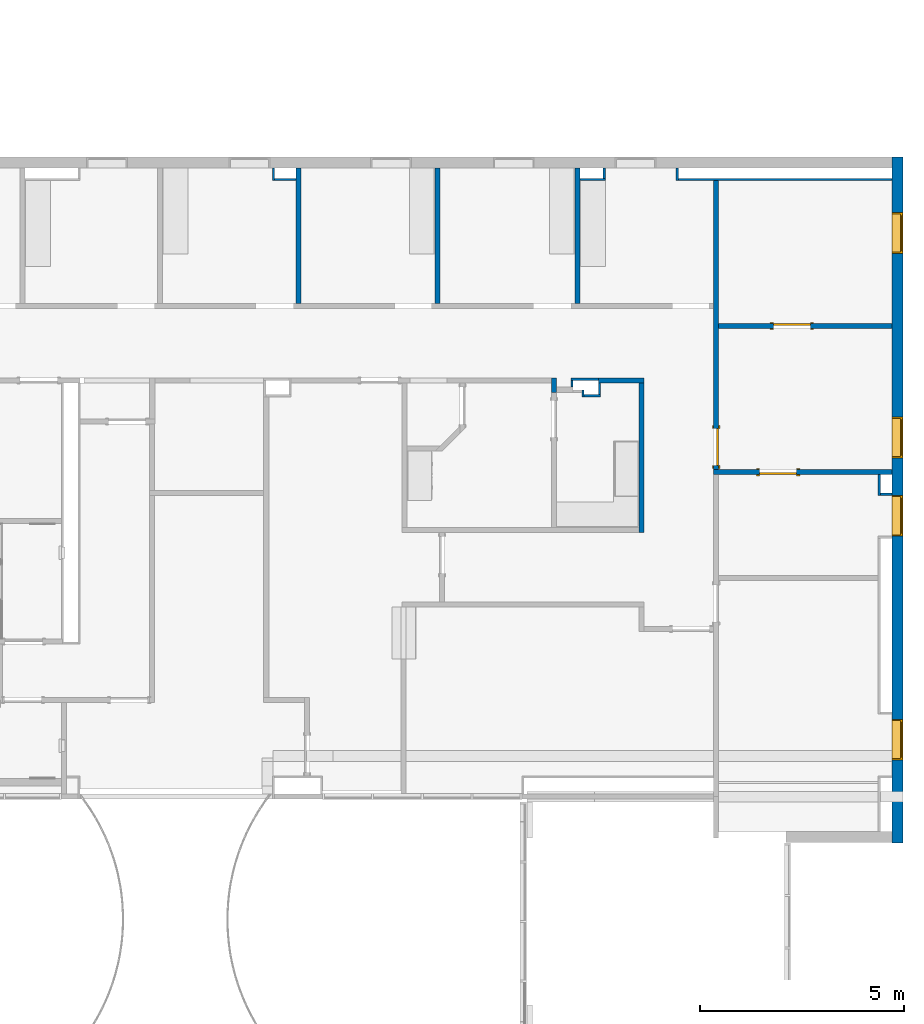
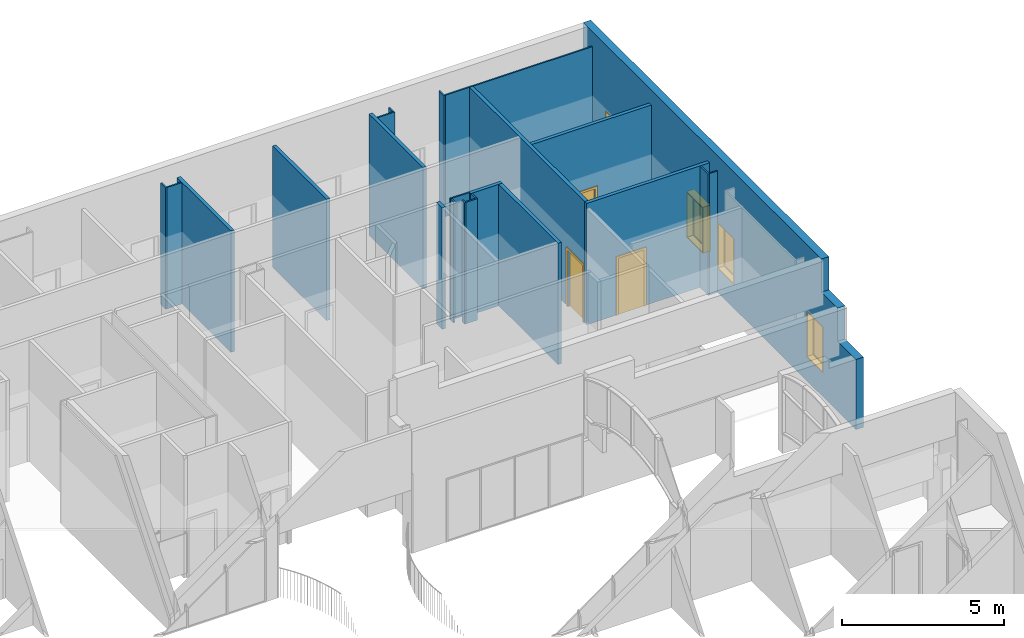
# One storey, part 24 of 47: 23 walls, 4 windows, 3 doors, 8 openings.
"""IFC2X3 building model written with IfcOpenShell, lengths in metres."""

from ifc_helpers import new_model, entity, si_unit, converted_unit, frame, frame_2d, origin, origin_2d_with_axis, place, context, project, spatial, polyline, rectangle, outline, extrude, clip, halfspace, source, transform, mapped, material, layer, layer_set, layer_usage, type_object, type_shapes, element, fill, save


model = new_model("IFC2X3")

# Units and contexts
model_context = context("Model", 3, precision=1e-09, world=origin())
plan_context = context("Plan", 3, precision=1e-09, world=origin())
ifc_project = project(units=[si_unit("LENGTHUNIT", "METRE"), si_unit("AREAUNIT", "SQUARE_METRE"), si_unit("VOLUMEUNIT", "CUBIC_METRE"), converted_unit("PLANEANGLEUNIT", "DEGREE", entity("IfcRatioMeasure", 0.01745329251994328), si_unit("PLANEANGLEUNIT", "RADIAN"), dimensions=[0, 0, 0, 0, 0, 0, 0]), si_unit("TIMEUNIT", "SECOND")], contexts=[model_context, plan_context])

# Site, building, storey
site_placement = place(None, origin())
site = spatial("IfcSite", under=ifc_project, at=site_placement, Name="Default", CompositionType="ELEMENT")
building_placement = place(site_placement, origin())
building = spatial("IfcBuilding", under=site, at=building_placement, CompositionType="ELEMENT")
storey_placement = place(building_placement, frame((0.0, 0.0, 4.570000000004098)))
storey = spatial("IfcBuildingStorey", under=building, at=storey_placement, Name="Second Floor", CompositionType="ELEMENT", Elevation=4.570000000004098)

# Wall, openings, windows
ifc_material_1 = material(Name="Insulation - Insulated Panel")
ifc_layer_1 = layer(ifc_material_1, 0.042)
ifc_material_2 = material(Name="Metal - Firring")
ifc_layer_2 = layer(ifc_material_2, 0.038)
ifc_material_3 = material(Name="Wood - Sheathing - plywood")
ifc_layer_3 = layer(ifc_material_3, 0.019)
ifc_material_4 = material(Name="Metal - Stud Layer")
ifc_layer_4 = layer(ifc_material_4, 0.152)
ifc_material_5 = material(Name="Plasterboard")
ifc_layer_5 = layer(ifc_material_5, 0.016)
ifc_layer_set_1 = layer_set([ifc_layer_1, ifc_layer_2, ifc_layer_3, ifc_layer_4, ifc_layer_5], Name="Basic Wall:Exterior - Insul Panel on Mtl. Stud")
ifc_layer_usage_1 = layer_usage(ifc_layer_set_1, "AXIS2", "NEGATIVE", 0.1335)
wall_1_placement = place(storey_placement, frame((0.2464999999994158, 50.46999999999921, 0.0), z_axis=(0.0, 0.0, 1.0), x_axis=(0.0, -1.0, 0.0)))
wall_1 = element("IfcWallStandardCase", 1, at=wall_1_placement, inside=storey, material=ifc_layer_usage_1, Name="Basic Wall:Exterior - Insul Panel on Mtl. Stud", ObjectType="Basic Wall:Exterior - Insul Panel on Mtl. Stud", context=model_context, shape_type="Clipping", body=[
    clip(extrude(rectangle(XDim=16.83999999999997, YDim=0.267, at=frame_2d((8.419999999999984, 0.0), x_axis=(-1.0, 0.0))), origin(), (0.0, 0.0, 1.0), 5.136999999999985), halfspace(frame((16.83999999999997, 0.0, 2.640000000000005), z_axis=(0.7602158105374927, 0.0, 0.6496706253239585), x_axis=(0.0, 1.0, 0.0)), False)),
])
opening_1_placement = place(wall_1_placement, frame((15.5330384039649, 0.1335, 3.638799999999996)))
element("IfcOpeningElement", 2, at=opening_1_placement, cuts=wall_1, Name="Basic Wall:Exterior - Insul Panel on Mtl. Stud:2", ObjectType="Opening", context=model_context, shape_type="SweptSolid", body=[
    extrude(outline(polyline([(-1.608398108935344, -0.3446818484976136), (1.676195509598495, -0.344681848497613), (0.7270660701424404, 0.4664319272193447), (0.077132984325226, -0.2940910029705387), (-0.8719964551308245, 0.5170227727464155), (-1.608398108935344, -0.3446818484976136)])), frame((0.0, 0.0, 0.0), z_axis=(0.0, -1.0, 0.0), x_axis=(-0.6496706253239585, 0.0, 0.7602158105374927)), (0.0, 0.0, 1.0), 0.267),
])
opening_2_placement = place(wall_1_placement, frame((1.36443913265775, -0.1335000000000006, 0.905)))
opening_2 = element("IfcOpeningElement", 3, at=opening_2_placement, cuts=wall_1, Name="M_Fixed:1735 x 1000mm:1735 x 1000mm:1", ObjectType="Opening", context=model_context, shape_type="SweptSolid", body=[
    extrude(rectangle(XDim=1.734999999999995, YDim=0.9999999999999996, at=frame_2d((0.8674999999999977, 0.4999999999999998), x_axis=(1.0, 0.0))), frame((0.0, 0.0, 0.0), z_axis=(0.0, 1.0, 0.0), x_axis=(0.0, 0.0, 1.0)), (0.0, 0.0, 1.0), 0.267),
])
opening_3_placement = place(wall_1_placement, frame((6.384439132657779, -0.1335000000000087, 0.905)))
opening_3 = element("IfcOpeningElement", 4, at=opening_3_placement, cuts=wall_1, Name="M_Fixed:1735 x 1000mm:1735 x 1000mm:1", ObjectType="Opening", context=model_context, shape_type="SweptSolid", body=[
    extrude(rectangle(XDim=1.734999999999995, YDim=0.9999999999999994, at=frame_2d((0.8674999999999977, 0.5000000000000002), x_axis=(1.0, 0.0))), frame((0.0, 0.0, 0.0), z_axis=(0.0, 1.0, 0.0), x_axis=(0.0, 0.0, 1.0)), (0.0, 0.0, 1.0), 0.267),
])
opening_4_placement = place(wall_1_placement, frame((8.305561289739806, -0.1335000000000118, 0.905)))
opening_4 = element("IfcOpeningElement", 5, at=opening_4_placement, cuts=wall_1, Name="M_Fixed:1735 x 1000mm:1735 x 1000mm:1", ObjectType="Opening", context=model_context, shape_type="SweptSolid", body=[
    extrude(rectangle(XDim=1.734999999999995, YDim=0.9999999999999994, at=frame_2d((0.8674999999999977, 0.5000000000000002), x_axis=(1.0, 0.0))), frame((0.0, 0.0, 0.0), z_axis=(0.0, 1.0, 0.0), x_axis=(0.0, 0.0, 1.0)), (0.0, 0.0, 1.0), 0.267),
])
opening_5_placement = place(wall_1_placement, frame((13.80556128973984, -0.1335000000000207, 0.905)))
opening_5 = element("IfcOpeningElement", 6, at=opening_5_placement, cuts=wall_1, Name="M_Fixed:1735 x 1000mm:1735 x 1000mm:1", ObjectType="Opening", context=model_context, shape_type="SweptSolid", body=[
    extrude(rectangle(XDim=1.734999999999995, YDim=0.9999999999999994, at=frame_2d((0.8674999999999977, 0.5000000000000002), x_axis=(1.0, 0.0))), frame((0.0, 0.0, 0.0), z_axis=(0.0, 1.0, 0.0), x_axis=(0.0, 0.0, 1.0)), (0.0, 0.0, 1.0), 0.267),
])
window_style = type_object("IfcWindowStyle", Name="1735 x 1000mm", ConstructionType="NOTDEFINED", OperationType="NOTDEFINED", ParameterTakesPrecedence=False, Sizeable=False)
shared_shape_1 = source(origin(), model_context, "Body", "SweptSolid", [
    extrude(rectangle(XDim=0.012, YDim=0.873999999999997, at=origin_2d_with_axis()), frame((0.5000000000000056, 0.2259999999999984, 0.06299999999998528), z_axis=(0.0, 0.0, 1.0), x_axis=(0.0, -1.0, 0.0)), (0.0, 0.0, 1.0), 1.609000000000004),
    extrude(outline(polyline([(-0.4809999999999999, -0.8485000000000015), (0.4809999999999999, -0.8485000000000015), (0.4809999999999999, 0.8485000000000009), (-0.4809999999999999, 0.8485000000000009), (-0.4809999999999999, -0.8485000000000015)]), holes=[polyline([(-0.4369999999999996, -0.8045000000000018), (-0.4369999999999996, 0.8045000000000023), (0.4369999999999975, 0.8045000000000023), (0.4369999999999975, -0.8045000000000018), (-0.4369999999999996, -0.8045000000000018)])]), frame((0.5000000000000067, 0.203999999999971, 0.8674999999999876), z_axis=(0.0, 1.0, 0.0), x_axis=(1.0, 0.0, 0.0)), (0.0, 0.0, 1.0), 0.04400000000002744),
    extrude(outline(polyline([(-0.4999999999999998, -0.8674999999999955), (0.4999999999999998, -0.8674999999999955), (0.4999999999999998, 0.8674999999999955), (-0.4999999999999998, 0.8674999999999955), (-0.4999999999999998, -0.8674999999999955)]), holes=[polyline([(-0.4810000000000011, -0.8484999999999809), (-0.4810000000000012, 0.8485000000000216), (0.4809999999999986, 0.8485000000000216), (0.4809999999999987, -0.8484999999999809), (-0.4810000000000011, -0.8484999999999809)])]), frame((0.500000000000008, 0.203999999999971, 0.8675000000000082), z_axis=(0.0, 1.0, 0.0), x_axis=(1.0, 0.0, 0.0)), (0.0, 0.0, 1.0), 0.06300000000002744),
    extrude(outline(polyline([(-0.5000000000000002, -0.867499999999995), (0.5000000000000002, -0.867499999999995), (0.5000000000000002, 0.867499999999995), (-0.5000000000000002, 0.867499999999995), (-0.5000000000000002, -0.867499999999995)]), holes=[polyline([(-0.4679999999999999, -0.8354999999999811), (-0.4679999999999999, 0.8355000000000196), (0.4680000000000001, 0.8355000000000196), (0.4680000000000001, -0.8354999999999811), (-0.4679999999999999, -0.8354999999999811)])]), frame((0.5000000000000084, 0.0, 0.8675000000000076), z_axis=(0.0, 1.0, 0.0), x_axis=(1.0, 0.0, 0.0)), (0.0, 0.0, 1.0), 0.2039999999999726),
])
type_shapes(window_style, [shared_shape_1])
window_1_placement = place(opening_2_placement, origin())
window_1 = element("IfcWindow", 7, at=window_1_placement, inside=storey, type_object=window_style, Name="M_Fixed:1735 x 1000mm:1735 x 1000mm", ObjectType="1735 x 1000mm", OverallHeight=1.734999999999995, OverallWidth=0.9999999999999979, context=model_context, shape_type="MappedRepresentation", body=[
    mapped(shared_shape_1, transform((0.0, 0.0, 0.0), scale=1.0)),
])
fill(opening_2, window_1)
window_2_placement = place(opening_3_placement, origin())
window_2 = element("IfcWindow", 8, at=window_2_placement, inside=storey, type_object=window_style, Name="M_Fixed:1735 x 1000mm:1735 x 1000mm", ObjectType="1735 x 1000mm", OverallHeight=1.734999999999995, OverallWidth=0.9999999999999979, context=model_context, shape_type="MappedRepresentation", body=[
    mapped(shared_shape_1, transform((0.0, 0.0, 0.0), scale=1.0)),
])
fill(opening_3, window_2)
window_3_placement = place(opening_4_placement, origin())
window_3 = element("IfcWindow", 9, at=window_3_placement, inside=storey, type_object=window_style, Name="M_Fixed:1735 x 1000mm:1735 x 1000mm", ObjectType="1735 x 1000mm", OverallHeight=1.734999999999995, OverallWidth=0.9999999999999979, context=model_context, shape_type="MappedRepresentation", body=[
    mapped(shared_shape_1, transform((0.0, 0.0, 0.0), scale=1.0)),
])
fill(opening_4, window_3)
window_4_placement = place(opening_5_placement, origin())
window_4 = element("IfcWindow", 10, at=window_4_placement, inside=storey, type_object=window_style, Name="M_Fixed:1735 x 1000mm:1735 x 1000mm", ObjectType="1735 x 1000mm", OverallHeight=1.734999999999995, OverallWidth=0.9999999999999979, context=model_context, shape_type="MappedRepresentation", body=[
    mapped(shared_shape_1, transform((0.0, 0.0, 0.0), scale=1.0)),
])
fill(opening_5, window_4)

# Walls
ifc_layer_6 = layer(ifc_material_5, 0.016)
ifc_layer_7 = layer(ifc_material_4, 0.092)
ifc_layer_8 = layer(ifc_material_5, 0.016)
ifc_layer_set_2 = layer_set([ifc_layer_6, ifc_layer_7, ifc_layer_8], Name="Basic Wall:Interior - Partition (92mm Stud)")
ifc_layer_usage_2 = layer_usage(ifc_layer_set_2, "AXIS2", "NEGATIVE", 0.062)
wall_2_placement = place(storey_placement, frame((-14.46200000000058, 50.20299999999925, 0.0), z_axis=(0.0, 0.0, 1.0), x_axis=(0.0, -1.0, 0.0)))
element("IfcWallStandardCase", 11, at=wall_2_placement, inside=storey, material=ifc_layer_usage_2, Name="Basic Wall:Interior - Partition (92mm Stud)", ObjectType="Basic Wall:Interior - Partition (92mm Stud)", context=model_context, shape_type="SweptSolid", body=[
    extrude(rectangle(XDim=3.324561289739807, YDim=0.1240000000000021, at=frame_2d((1.662280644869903, 0.0), x_axis=(-1.0, 0.0))), origin(), (0.0, 0.0, 1.0), 4.577999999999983),
])
ifc_layer_usage_3 = layer_usage(ifc_layer_set_2, "AXIS2", "NEGATIVE", 0.062)
wall_3_placement = place(storey_placement, frame((-11.05200000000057, 50.20299999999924, 0.0), z_axis=(0.0, 0.0, 1.0), x_axis=(0.0, -1.0, 0.0)))
element("IfcWallStandardCase", 12, at=wall_3_placement, inside=storey, material=ifc_layer_usage_3, Name="Basic Wall:Interior - Partition (92mm Stud)", ObjectType="Basic Wall:Interior - Partition (92mm Stud)", context=model_context, shape_type="SweptSolid", body=[
    extrude(rectangle(XDim=3.324561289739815, YDim=0.1240000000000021, at=frame_2d((1.662280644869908, 0.0), x_axis=(-1.0, 0.0))), origin(), (0.0, 0.0, 1.0), 4.577999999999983),
])
ifc_layer_usage_4 = layer_usage(ifc_layer_set_2, "AXIS2", "NEGATIVE", 0.062)
wall_4_placement = place(storey_placement, frame((-7.618000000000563, 46.87843871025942, 0.0), z_axis=(0.0, 0.0, 1.0), x_axis=(0.0, 1.0, 0.0)))
element("IfcWallStandardCase", 13, at=wall_4_placement, inside=storey, material=ifc_layer_usage_4, Name="Basic Wall:Interior - Partition (92mm Stud)", ObjectType="Basic Wall:Interior - Partition (92mm Stud)", context=model_context, shape_type="SweptSolid", body=[
    extrude(rectangle(XDim=3.324561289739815, YDim=0.124, at=frame_2d((1.662280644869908, 0.0), x_axis=(-1.0, 0.0))), origin(), (0.0, 0.0, 1.0), 4.577999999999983),
])

# Wall, opening, door
ifc_layer_usage_5 = layer_usage(ifc_layer_set_2, "AXIS2", "NEGATIVE", 0.062)
wall_5_placement = place(storey_placement, frame((0.1129999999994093, 46.3264387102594, 0.0), z_axis=(0.0, 0.0, 1.0), x_axis=(-1.0, 0.0, 0.0)))
wall_5 = element("IfcWallStandardCase", 14, at=wall_5_placement, inside=storey, material=ifc_layer_usage_5, Name="Basic Wall:Interior - Partition (92mm Stud)", ObjectType="Basic Wall:Interior - Partition (92mm Stud)", context=model_context, shape_type="SweptSolid", body=[
    extrude(rectangle(XDim=4.258999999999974, YDim=0.1240000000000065, at=frame_2d((2.129499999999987, 0.0), x_axis=(-1.0, 0.0))), origin(), (0.0, 0.0, 1.0), 4.577999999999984),
])
opening_6_placement = place(wall_5_placement, frame((2.918999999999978, 0.06199999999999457, 0.0)))
opening_6 = element("IfcOpeningElement", 15, at=opening_6_placement, cuts=wall_5, Name="M_Single-Flush:0915 x 2134mm:0915 x 2134mm:1", ObjectType="Opening", context=model_context, shape_type="SweptSolid", body=[
    extrude(rectangle(XDim=0.915, YDim=2.134, at=frame_2d((1.067, 0.4575000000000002), x_axis=(0.0, -1.0))), frame((0.0, 0.0, 0.0), z_axis=(0.0, -1.0, 0.0), x_axis=(0.0, 0.0, 1.0)), (0.0, 0.0, 1.0), 0.124),
])
door_style_1 = type_object("IfcDoorStyle", Name="0915 x 2134mm", ConstructionType="NOTDEFINED", OperationType="SINGLE_SWING_LEFT", ParameterTakesPrecedence=False, Sizeable=False)
shared_shape_2 = source(origin(), model_context, "Body", "SweptSolid", [
    extrude(outline(polyline([(-0.5335, -1.123999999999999), (0.5334999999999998, -1.123999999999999), (0.5334999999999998, 1.086), (0.4574999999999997, 1.086), (0.4574999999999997, -1.048000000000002), (-0.4574999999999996, -1.048000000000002), (-0.4574999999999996, 1.086), (-0.5335, 1.086), (-0.5335, -1.123999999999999)])), frame((0.4575000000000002, 0.1489999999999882, 1.086), z_axis=(0.0, -1.0, 0.0), x_axis=(-1.0, 0.0, 0.0)), (0.0, 0.0, 1.0), 0.02499999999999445),
    extrude(outline(polyline([(-1.123999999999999, -0.5334999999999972), (1.085999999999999, -0.5334999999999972), (1.085999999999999, -0.4575000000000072), (-1.048, -0.4575000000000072), (-1.048, 0.4575000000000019), (1.085999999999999, 0.4575000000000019), (1.085999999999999, 0.5335000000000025), (-1.123999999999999, 0.5335000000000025), (-1.123999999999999, -0.5334999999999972)])), frame((0.4574999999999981, 0.0, 1.085999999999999), z_axis=(0.0, -1.0, 0.0), x_axis=(0.0, 0.0, -1.0)), (0.0, 0.0, 1.0), 0.02500000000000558),
    extrude(rectangle(XDim=0.9149999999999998, YDim=0.051, at=origin_2d_with_axis()), frame((0.4575000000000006, 0.09849999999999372, 0.0)), (0.0, 0.0, 1.0), 2.133999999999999),
])
type_shapes(door_style_1, [shared_shape_2])
door_1_placement = place(opening_6_placement, frame((0.0, 0.0, 0.0), z_axis=(0.0, 0.0, 1.0), x_axis=(-1.0, 0.0, 0.0)))
door_1 = element("IfcDoor", 16, at=door_1_placement, inside=storey, type_object=door_style_1, Name="M_Single-Flush:0915 x 2134mm:0915 x 2134mm", ObjectType="0915 x 2134mm", OverallHeight=2.134, OverallWidth=0.9149999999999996, context=model_context, shape_type="MappedRepresentation", body=[
    mapped(shared_shape_2, transform((0.0, 0.0, 0.0), scale=1.0)),
])
fill(opening_6, door_1)

# Walls
ifc_layer_usage_6 = layer_usage(ifc_layer_set_2, "AXIS2", "NEGATIVE", 0.062)
wall_6_placement = place(storey_placement, frame((-8.19200000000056, 45.04443871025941, 0.0), z_axis=(0.0, 0.0, 1.0), x_axis=(0.0, -1.0, 0.0)))
element("IfcWallStandardCase", 17, at=wall_6_placement, inside=storey, material=ifc_layer_usage_6, Name="Basic Wall:Interior - Partition (92mm Stud)", ObjectType="Basic Wall:Interior - Partition (92mm Stud)", context=model_context, shape_type="SweptSolid", body=[
    extrude(rectangle(XDim=0.3489998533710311, YDim=0.124, at=frame_2d((0.1744999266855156, 0.0), x_axis=(-1.0, 0.0))), origin(), (0.0, 0.0, 1.0), 4.577999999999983),
])
ifc_layer_usage_7 = layer_usage(ifc_layer_set_2, "AXIS2", "NEGATIVE", 0.062)
wall_7_placement = place(storey_placement, frame((-7.104000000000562, 44.9824387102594, 0.0)))
element("IfcWallStandardCase", 18, at=wall_7_placement, inside=storey, material=ifc_layer_usage_7, Name="Basic Wall:Interior - Partition (92mm Stud)", ObjectType="Basic Wall:Interior - Partition (92mm Stud)", context=model_context, shape_type="SweptSolid", body=[
    extrude(rectangle(XDim=1.124000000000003, YDim=0.1240000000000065, at=frame_2d((0.5620000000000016, 0.0), x_axis=(-1.0, 0.0))), origin(), (0.0, 0.0, 1.0), 4.577999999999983),
])
ifc_layer_usage_8 = layer_usage(ifc_layer_set_2, "AXIS2", "NEGATIVE", 0.062)
wall_8_placement = place(storey_placement, frame((-6.042000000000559, 44.9204387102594, 0.0), z_axis=(0.0, 0.0, 1.0), x_axis=(0.0, -1.0, 0.0)))
element("IfcWallStandardCase", 19, at=wall_8_placement, inside=storey, material=ifc_layer_usage_8, Name="Basic Wall:Interior - Partition (92mm Stud)", ObjectType="Basic Wall:Interior - Partition (92mm Stud)", context=model_context, shape_type="SweptSolid", body=[
    extrude(rectangle(XDim=3.666000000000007, YDim=0.124, at=frame_2d((1.833000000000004, 0.0), x_axis=(-1.0, 0.0))), origin(), (0.0, 0.0, 1.0), 4.577999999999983),
])

# Wall, opening, door
ifc_layer_usage_9 = layer_usage(ifc_layer_set_2, "AXIS2", "NEGATIVE", 0.062)
wall_9_placement = place(storey_placement, frame((-4.270000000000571, 42.7324387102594, 0.0)))
wall_9 = element("IfcWallStandardCase", 20, at=wall_9_placement, inside=storey, material=ifc_layer_usage_9, Name="Basic Wall:Interior - Partition (92mm Stud)", ObjectType="Basic Wall:Interior - Partition (92mm Stud)", context=model_context, shape_type="SweptSolid", body=[
    extrude(rectangle(XDim=4.382999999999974, YDim=0.1240000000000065, at=frame_2d((2.191499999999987, 0.0), x_axis=(-1.0, 0.0))), origin(), (0.0, 0.0, 1.0), 4.577999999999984),
])
opening_7_placement = place(wall_9_placement, frame((2.03900000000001, 0.06199999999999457, 0.0)))
opening_7 = element("IfcOpeningElement", 21, at=opening_7_placement, cuts=wall_9, Name="M_Single-Flush:0915 x 2134mm:0915 x 2134mm:1", ObjectType="Opening", context=model_context, shape_type="SweptSolid", body=[
    extrude(rectangle(XDim=0.9149999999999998, YDim=2.134, at=frame_2d((1.067, 0.4575000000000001), x_axis=(0.0, 1.0))), frame((0.0, 0.0, 0.0), z_axis=(0.0, -1.0, 0.0), x_axis=(0.0, 0.0, 1.0)), (0.0, 0.0, 1.0), 0.124),
])
door_style_2 = type_object("IfcDoorStyle", Name="0915 x 2134mm", ConstructionType="NOTDEFINED", OperationType="SINGLE_SWING_RIGHT", ParameterTakesPrecedence=False, Sizeable=False)
shared_shape_3 = source(origin(), model_context, "Body", "SweptSolid", [
    extrude(outline(polyline([(-0.5335, -1.123999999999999), (0.5334999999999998, -1.123999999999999), (0.5334999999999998, 1.086), (0.4574999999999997, 1.086), (0.4574999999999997, -1.048000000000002), (-0.4574999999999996, -1.048000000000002), (-0.4574999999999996, 1.086), (-0.5335, 1.086), (-0.5335, -1.123999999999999)])), frame((0.4575000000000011, 0.1239999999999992, 1.086), z_axis=(0.0, 1.0, 0.0), x_axis=(1.0, 0.0, 0.0)), (0.0, 0.0, 1.0), 0.02499999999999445),
    extrude(outline(polyline([(-1.123999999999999, -0.5334999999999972), (1.085999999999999, -0.5334999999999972), (1.085999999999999, -0.4575000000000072), (-1.048, -0.4575000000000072), (-1.048, 0.4575000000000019), (1.085999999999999, 0.4575000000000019), (1.085999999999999, 0.5335000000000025), (-1.123999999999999, 0.5335000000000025), (-1.123999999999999, -0.5334999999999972)])), frame((0.4575000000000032, -0.02500000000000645, 1.085999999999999), z_axis=(0.0, 1.0, 0.0), x_axis=(0.0, 0.0, -1.0)), (0.0, 0.0, 1.0), 0.02500000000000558),
    extrude(rectangle(XDim=0.051, YDim=0.9149999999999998, at=origin_2d_with_axis()), frame((0.4575000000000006, 0.09849999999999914, 0.0), z_axis=(0.0, 0.0, 1.0), x_axis=(0.0, 1.0, 0.0)), (0.0, 0.0, 1.0), 2.133999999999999),
])
type_shapes(door_style_2, [shared_shape_3])
door_2_placement = place(opening_7_placement, frame((0.0, 0.0, 0.0), z_axis=(0.0, 0.0, 1.0), x_axis=(-1.0, 0.0, 0.0)))
door_2 = element("IfcDoor", 22, at=door_2_placement, inside=storey, type_object=door_style_2, Name="M_Single-Flush:0915 x 2134mm:0915 x 2134mm", ObjectType="0915 x 2134mm", OverallHeight=2.134, OverallWidth=0.9150000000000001, context=model_context, shape_type="MappedRepresentation", body=[
    mapped(shared_shape_3, transform((0.0, 0.0, 0.0), scale=1.0)),
])
fill(opening_7, door_2)

ifc_layer_usage_10 = layer_usage(ifc_layer_set_2, "AXIS2", "NEGATIVE", 0.062)
wall_10_placement = place(storey_placement, frame((-4.20800000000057, 42.79443871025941, 0.0), z_axis=(0.0, 0.0, 1.0), x_axis=(0.0, 1.0, 0.0)))
wall_10 = element("IfcWallStandardCase", 23, at=wall_10_placement, inside=storey, material=ifc_layer_usage_10, Name="Basic Wall:Interior - Partition (92mm Stud)", ObjectType="Basic Wall:Interior - Partition (92mm Stud)", context=model_context, shape_type="SweptSolid", body=[
    extrude(rectangle(XDim=7.100000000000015, YDim=0.124, at=frame_2d((3.550000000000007, 0.0), x_axis=(-1.0, 0.0))), origin(), (0.0, 0.0, 1.0), 4.577999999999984),
])
opening_8_placement = place(wall_10_placement, frame((1.014999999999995, 0.06199999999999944, 0.0)))
opening_8 = element("IfcOpeningElement", 24, at=opening_8_placement, cuts=wall_10, Name="M_Single-Flush:0915 x 2134mm:0915 x 2134mm:1", ObjectType="Opening", context=model_context, shape_type="SweptSolid", body=[
    extrude(rectangle(XDim=0.9149999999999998, YDim=2.134, at=frame_2d((1.067, 0.4575), x_axis=(0.0, 1.0))), frame((0.0, 0.0, 0.0), z_axis=(0.0, -1.0, 0.0), x_axis=(0.0, 0.0, 1.0)), (0.0, 0.0, 1.0), 0.124),
])
door_3_placement = place(opening_8_placement, frame((0.0, 0.0, 0.0), z_axis=(0.0, 0.0, 1.0), x_axis=(-1.0, 0.0, 0.0)))
door_3 = element("IfcDoor", 25, at=door_3_placement, inside=storey, type_object=door_style_2, Name="M_Single-Flush:0915 x 2134mm:0915 x 2134mm", ObjectType="0915 x 2134mm", OverallHeight=2.134, OverallWidth=0.9149999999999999, context=model_context, shape_type="MappedRepresentation", body=[
    mapped(shared_shape_3, transform((0.0, 0.0, 0.0), scale=1.0)),
])
fill(opening_8, door_3)

# Walls
ifc_layer_9 = layer(ifc_material_4, 0.038)
ifc_layer_10 = layer(ifc_material_5, 0.016)
ifc_layer_set_3 = layer_set([ifc_layer_9, ifc_layer_10], Name="Basic Wall:Interior - Furring (38 mm Stud)")
ifc_layer_usage_11 = layer_usage(ifc_layer_set_3, "AXIS2", "NEGATIVE", 0.027)
wall_11_placement = place(storey_placement, frame((-0.2030000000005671, 42.67043871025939, 0.0), z_axis=(0.0, 0.0, 1.0), x_axis=(0.0, -1.0, 0.0)))
element("IfcWallStandardCase", 26, at=wall_11_placement, inside=storey, material=ifc_layer_usage_11, Name="Basic Wall:Interior - Furring (38 mm Stud)", ObjectType="Basic Wall:Interior - Furring (38 mm Stud)", context=model_context, shape_type="SweptSolid", body=[
    extrude(rectangle(XDim=0.5059999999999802, YDim=0.05400000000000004, at=frame_2d((0.2529999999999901, 0.0), x_axis=(-1.0, 0.0))), origin(), (0.0, 0.0, 1.0), 4.577999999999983),
])
ifc_layer_usage_12 = layer_usage(ifc_layer_set_3, "AXIS2", "NEGATIVE", 0.027)
wall_12_placement = place(storey_placement, frame((-0.1760000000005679, 42.19143871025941, 0.0)))
element("IfcWallStandardCase", 27, at=wall_12_placement, inside=storey, material=ifc_layer_usage_12, Name="Basic Wall:Interior - Furring (38 mm Stud)", ObjectType="Basic Wall:Interior - Furring (38 mm Stud)", context=model_context, shape_type="SweptSolid", body=[
    extrude(rectangle(XDim=0.2889999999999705, YDim=0.05400000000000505, at=frame_2d((0.1444999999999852, 0.0), x_axis=(-1.0, 0.0))), origin(), (0.0, 0.0, 1.0), 4.577999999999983),
])
ifc_layer_usage_13 = layer_usage(ifc_layer_set_3, "AXIS2", "NEGATIVE", 0.027)
wall_13_placement = place(storey_placement, frame((-7.104000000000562, 45.01743871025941, 0.0), z_axis=(0.0, 0.0, 1.0), x_axis=(-1.0, 0.0, 0.0)))
element("IfcWallStandardCase", 28, at=wall_13_placement, inside=storey, material=ifc_layer_usage_13, Name="Basic Wall:Interior - Furring (38 mm Stud)", ObjectType="Basic Wall:Interior - Furring (38 mm Stud)", context=model_context, shape_type="SweptSolid", body=[
    extrude(rectangle(XDim=0.676000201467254, YDim=0.05400000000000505, at=frame_2d((0.338000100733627, 0.0), x_axis=(-1.0, 0.0))), origin(), (0.0, 0.0, 1.0), 4.577999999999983),
])
ifc_layer_usage_14 = layer_usage(ifc_layer_set_3, "AXIS2", "NEGATIVE", 0.027)
wall_14_placement = place(storey_placement, frame((-7.753000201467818, 44.9904387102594, 0.0), z_axis=(0.0, 0.0, 1.0), x_axis=(0.0, -1.0, 0.0)))
element("IfcWallStandardCase", 29, at=wall_14_placement, inside=storey, material=ifc_layer_usage_14, Name="Basic Wall:Interior - Furring (38 mm Stud)", ObjectType="Basic Wall:Interior - Furring (38 mm Stud)", context=model_context, shape_type="SweptSolid", body=[
    extrude(rectangle(XDim=0.1709998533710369, YDim=0.05400000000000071, at=frame_2d((0.08549992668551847, 0.0), x_axis=(-1.0, 0.0))), origin(), (0.0, 0.0, 1.0), 4.577999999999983),
])
ifc_layer_usage_15 = layer_usage(ifc_layer_set_3, "AXIS2", "NEGATIVE", 0.027)
wall_15_placement = place(storey_placement, frame((-7.483000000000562, 44.74943885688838, 0.0), z_axis=(0.0, 0.0, 1.0), x_axis=(0.0, -1.0, 0.0)))
element("IfcWallStandardCase", 30, at=wall_15_placement, inside=storey, material=ifc_layer_usage_15, Name="Basic Wall:Interior - Furring (38 mm Stud)", ObjectType="Basic Wall:Interior - Furring (38 mm Stud)", context=model_context, shape_type="SweptSolid", body=[
    extrude(rectangle(XDim=0.165000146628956, YDim=0.05400000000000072, at=frame_2d((0.082500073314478, 0.0), x_axis=(-1.0, 0.0))), origin(), (0.0, 0.0, 1.0), 4.577999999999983),
])
ifc_layer_usage_16 = layer_usage(ifc_layer_set_3, "AXIS2", "NEGATIVE", 0.027)
wall_16_placement = place(storey_placement, frame((-7.456000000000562, 44.61143871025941, 0.0)))
element("IfcWallStandardCase", 31, at=wall_16_placement, inside=storey, material=ifc_layer_usage_16, Name="Basic Wall:Interior - Furring (38 mm Stud)", ObjectType="Basic Wall:Interior - Furring (38 mm Stud)", context=model_context, shape_type="SweptSolid", body=[
    extrude(rectangle(XDim=0.4059999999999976, YDim=0.05400000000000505, at=frame_2d((0.2029999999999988, 0.0), x_axis=(-1.0, 0.0))), origin(), (0.0, 0.0, 1.0), 4.577999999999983),
])
ifc_layer_usage_17 = layer_usage(ifc_layer_set_3, "AXIS2", "NEGATIVE", 0.027)
wall_17_placement = place(storey_placement, frame((-7.077000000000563, 44.63843871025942, 0.0), z_axis=(0.0, 0.0, 1.0), x_axis=(0.0, 1.0, 0.0)))
element("IfcWallStandardCase", 32, at=wall_17_placement, inside=storey, material=ifc_layer_usage_17, Name="Basic Wall:Interior - Furring (38 mm Stud)", ObjectType="Basic Wall:Interior - Furring (38 mm Stud)", context=model_context, shape_type="SweptSolid", body=[
    extrude(rectangle(XDim=0.2819999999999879, YDim=0.05400000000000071, at=frame_2d((0.1409999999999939, 0.0), x_axis=(-1.0, 0.0))), origin(), (0.0, 0.0, 1.0), 4.577999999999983),
])
ifc_layer_usage_18 = layer_usage(ifc_layer_set_3, "AXIS2", "NEGATIVE", 0.027)
wall_18_placement = place(storey_placement, frame((-15.0829750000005, 50.20299999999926, 0.0), z_axis=(0.0, 0.0, 1.0), x_axis=(0.0, -1.0, 0.0)))
element("IfcWallStandardCase", 33, at=wall_18_placement, inside=storey, material=ifc_layer_usage_18, Name="Basic Wall:Interior - Furring (38 mm Stud)", ObjectType="Basic Wall:Interior - Furring (38 mm Stud)", context=model_context, shape_type="SweptSolid", body=[
    extrude(rectangle(XDim=0.3085612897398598, YDim=0.05400000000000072, at=frame_2d((0.1542806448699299, 0.0), x_axis=(-1.0, 0.0))), origin(), (0.0, 0.0, 1.0), 4.577999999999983),
])
ifc_layer_usage_19 = layer_usage(ifc_layer_set_3, "AXIS2", "NEGATIVE", 0.027)
wall_19_placement = place(storey_placement, frame((-15.0559750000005, 49.9214387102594, 0.0)))
element("IfcWallStandardCase", 34, at=wall_19_placement, inside=storey, material=ifc_layer_usage_19, Name="Basic Wall:Interior - Furring (38 mm Stud)", ObjectType="Basic Wall:Interior - Furring (38 mm Stud)", context=model_context, shape_type="SweptSolid", body=[
    extrude(rectangle(XDim=0.5319749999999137, YDim=0.05400000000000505, at=frame_2d((0.2659874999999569, 0.0), x_axis=(-1.0, 0.0))), origin(), (0.0, 0.0, 1.0), 4.577999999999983),
])
ifc_layer_usage_20 = layer_usage(ifc_layer_set_3, "AXIS2", "NEGATIVE", 0.027)
wall_20_placement = place(storey_placement, frame((-7.556000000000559, 49.92143871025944, 0.0)))
element("IfcWallStandardCase", 35, at=wall_20_placement, inside=storey, material=ifc_layer_usage_20, Name="Basic Wall:Interior - Furring (38 mm Stud)", ObjectType="Basic Wall:Interior - Furring (38 mm Stud)", context=model_context, shape_type="SweptSolid", body=[
    extrude(rectangle(XDim=0.6250000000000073, YDim=0.05400000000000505, at=frame_2d((0.3125000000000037, 0.0), x_axis=(-1.0, 0.0))), origin(), (0.0, 0.0, 1.0), 4.577999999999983),
])
ifc_layer_usage_21 = layer_usage(ifc_layer_set_3, "AXIS2", "NEGATIVE", 0.027)
wall_21_placement = place(storey_placement, frame((-6.958000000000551, 49.94843871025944, 0.0), z_axis=(0.0, 0.0, 1.0), x_axis=(0.0, 1.0, 0.0)))
element("IfcWallStandardCase", 36, at=wall_21_placement, inside=storey, material=ifc_layer_usage_21, Name="Basic Wall:Interior - Furring (38 mm Stud)", ObjectType="Basic Wall:Interior - Furring (38 mm Stud)", context=model_context, shape_type="SweptSolid", body=[
    extrude(rectangle(XDim=0.2545612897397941, YDim=0.05400000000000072, at=frame_2d((0.127280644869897, 0.0), x_axis=(-1.0, 0.0))), origin(), (0.0, 0.0, 1.0), 4.577999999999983),
])
ifc_layer_usage_22 = layer_usage(ifc_layer_set_3, "AXIS2", "NEGATIVE", 0.027)
wall_22_placement = place(storey_placement, frame((-5.163000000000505, 50.20299999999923, 0.0), z_axis=(0.0, 0.0, 1.0), x_axis=(0.0, -1.0, 0.0)))
element("IfcWallStandardCase", 37, at=wall_22_placement, inside=storey, material=ifc_layer_usage_22, Name="Basic Wall:Interior - Furring (38 mm Stud)", ObjectType="Basic Wall:Interior - Furring (38 mm Stud)", context=model_context, shape_type="SweptSolid", body=[
    extrude(rectangle(XDim=0.3085612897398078, YDim=0.05400000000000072, at=frame_2d((0.1542806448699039, 0.0), x_axis=(-1.0, 0.0))), origin(), (0.0, 0.0, 1.0), 4.577999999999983),
])
ifc_layer_usage_23 = layer_usage(ifc_layer_set_3, "AXIS2", "NEGATIVE", 0.027)
wall_23_placement = place(storey_placement, frame((-5.136000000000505, 49.92143871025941, 0.0)))
element("IfcWallStandardCase", 38, at=wall_23_placement, inside=storey, material=ifc_layer_usage_23, Name="Basic Wall:Interior - Furring (38 mm Stud)", ObjectType="Basic Wall:Interior - Furring (38 mm Stud)", context=model_context, shape_type="SweptSolid", body=[
    extrude(rectangle(XDim=5.248999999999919, YDim=0.05400000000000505, at=frame_2d((2.624499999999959, 0.0), x_axis=(-1.0, 0.0))), origin(), (0.0, 0.0, 1.0), 4.577999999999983),
])

save(model, "model.ifc")
